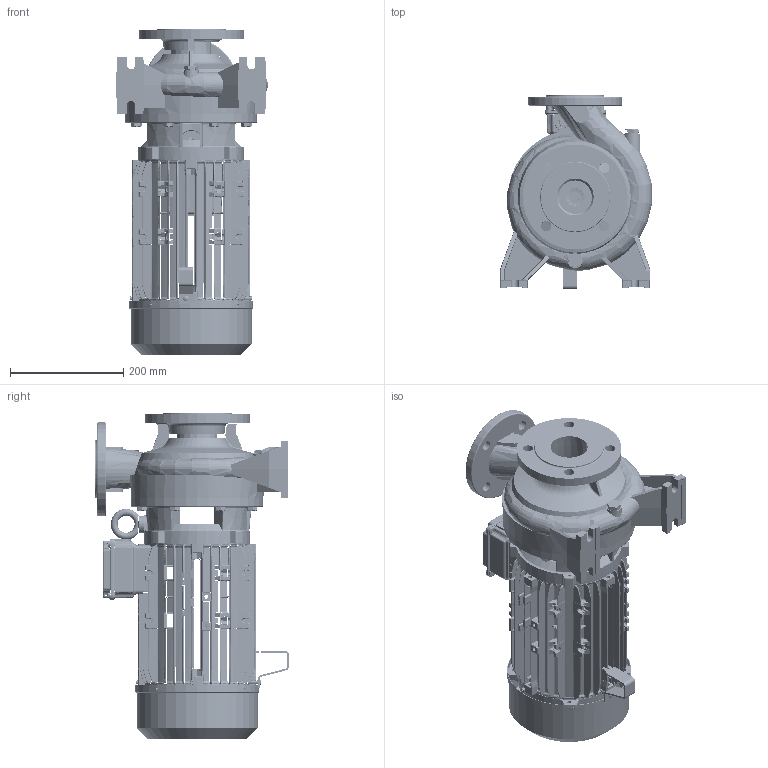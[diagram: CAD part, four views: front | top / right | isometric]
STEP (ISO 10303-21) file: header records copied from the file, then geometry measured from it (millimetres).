
FILE_DESCRIPTION (( 'STEP AP203' ), '1' );
FILE_NAME ('CN 50-160.STEP', '2020-03-05T15:35:45', ( '' ), ( '' ), 'SwSTEP 2.0', 'SolidWorks 2019', '' );
FILE_SCHEMA (( 'CONFIG_CONTROL_DESIGN' ));
Products named in the file (2): CN 50-160
Bounding box: 267.87 x 341.5 x 576.5 mm (x, y, z)
Surface area: 1057401.3 mm2 (no closed solid volume)
Topology: 0 solids, 81 shells, 5303 faces, 18277 edges, 12354 vertices
Faces by surface type: plane 1729, bspline 1609, cylinder 1537, cone 292, torus 117, sphere 19
Entity records: 305764 total; most frequent: CARTESIAN_POINT 170926, ORIENTED_EDGE 28094, DIRECTION 22644, EDGE_CURVE 18211, VERTEX_POINT 12354, AXIS2_PLACEMENT_3D 7650, LINE 7344, VECTOR 7344
